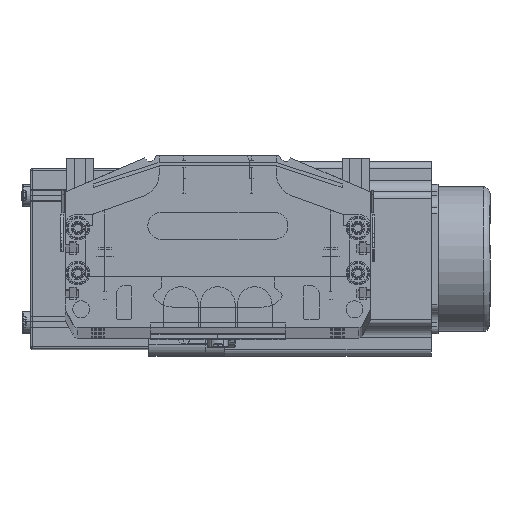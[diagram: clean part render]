
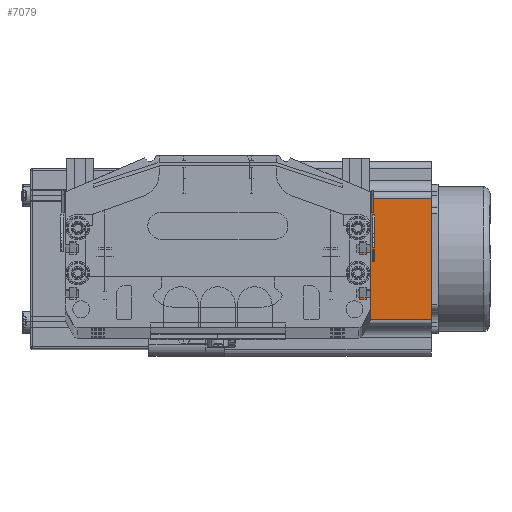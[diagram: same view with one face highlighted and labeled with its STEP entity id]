
A CAD part, top view. The second image highlights one B-rep face of the part: STEP entity #7079.
In plain terms, the highlighted planar face has unit normal (0, 0, 1) as drawn and (-1, 0, 0) by its records, which use the part's own axes.
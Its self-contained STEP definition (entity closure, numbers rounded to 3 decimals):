
#6646 = ORIENTED_EDGE ( 'NONE', *, *, #6924, .T. ) ;
#6760 = ORIENTED_EDGE ( 'NONE', *, *, #6986, .F. ) ;
#6761 = EDGE_CURVE ( 'NONE', #7081, #6826, #31655, .T. ) ;
#6766 = ORIENTED_EDGE ( 'NONE', *, *, #6761, .T. ) ;
#6826 = VERTEX_POINT ( 'NONE', #58268 ) ;
#6924 = EDGE_CURVE ( 'NONE', #7019, #7017, #58191, .T. ) ;
#6975 = ORIENTED_EDGE ( 'NONE', *, *, #7016, .T. ) ;
#6986 = EDGE_CURVE ( 'NONE', #7081, #7017, #57983, .T. ) ;
#7016 = EDGE_CURVE ( 'NONE', #6826, #7019, #58244, .T. ) ;
#7017 = VERTEX_POINT ( 'NONE', #58242 ) ;
#7019 = VERTEX_POINT ( 'NONE', #58239 ) ;
#7024 = EDGE_LOOP ( 'NONE', ( #6975, #6646, #6760, #6766 ) ) ;
#7079 = ADVANCED_FACE ( 'NONE', ( #59307 ), #59526, .F. ) ;
#7081 = VERTEX_POINT ( 'NONE', #59579 ) ;
#26971 = CARTESIAN_POINT ( 'NONE',  ( 0., 69.74, 91.5 ) ) ;
#27954 = DIRECTION ( 'NONE',  ( 0., 0., -1. ) ) ;
#31655 = LINE ( 'NONE', #26971, #32387 ) ;
#32387 = VECTOR ( 'NONE', #27954, 1000. ) ;
#57957 = VECTOR ( 'NONE', #57969, 1000. ) ;
#57969 = DIRECTION ( 'NONE',  ( 0., 0., 1. ) ) ;
#57970 = CARTESIAN_POINT ( 'NONE',  ( 0., 16.16, 91.5 ) ) ;
#57976 = DIRECTION ( 'NONE',  ( 0., -1., 0. ) ) ;
#57977 = VECTOR ( 'NONE', #57976, 1000. ) ;
#57983 = LINE ( 'NONE', #58142, #57977 ) ;
#58142 = CARTESIAN_POINT ( 'NONE',  ( 0., 0., 91.5 ) ) ;
#58191 = LINE ( 'NONE', #57970, #57957 ) ;
#58235 = DIRECTION ( 'NONE',  ( 0., -1., 0. ) ) ;
#58236 = VECTOR ( 'NONE', #58235, 1000. ) ;
#58238 = CARTESIAN_POINT ( 'NONE',  ( 0., 0., 0. ) ) ;
#58239 = CARTESIAN_POINT ( 'NONE',  ( 0., 16.16, 0. ) ) ;
#58242 = CARTESIAN_POINT ( 'NONE',  ( 0., 16.16, 91.5 ) ) ;
#58244 = LINE ( 'NONE', #58238, #58236 ) ;
#58268 = CARTESIAN_POINT ( 'NONE',  ( 0., 69.74, 0. ) ) ;
#59307 = FACE_OUTER_BOUND ( 'NONE', #7024, .T. ) ;
#59446 = CARTESIAN_POINT ( 'NONE',  ( 0., 0., 91.5 ) ) ;
#59508 = DIRECTION ( 'NONE',  ( 0., 0., -1. ) ) ;
#59509 = DIRECTION ( 'NONE',  ( 1., 0., 0. ) ) ;
#59526 = PLANE ( 'NONE',  #59587 ) ;
#59579 = CARTESIAN_POINT ( 'NONE',  ( 0., 69.74, 91.5 ) ) ;
#59587 = AXIS2_PLACEMENT_3D ( 'NONE', #59446, #59509, #59508 ) ;
